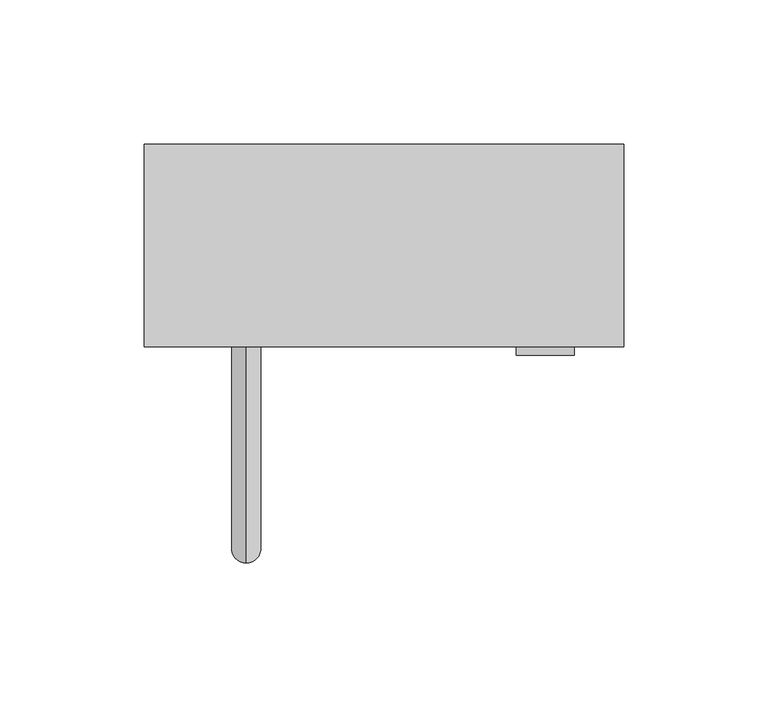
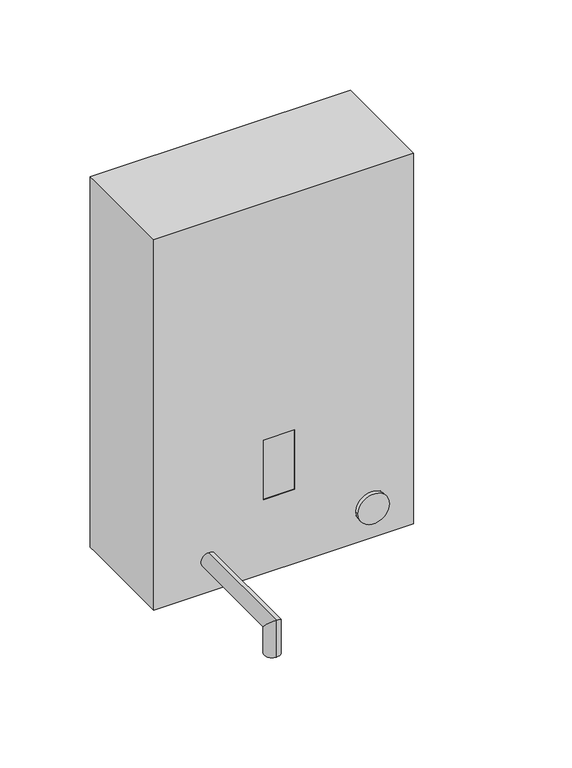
"""IFC4 building model written with IfcOpenShell, lengths in millimetres: proxy geometry, BIMHealth-Water_Boiler-LOD2A-v1 : BIMHealth-Water_Boiler-LOD2A-v1."""

import ifcopenshell
import ifcopenshell.guid

model = None  # the IFC model being written
_history = None  # IfcOwnerHistory: only IFC2X3 demands one
_inside = {}  # id of a spatial element -> (the spatial element, [elements in it])
_under = {}  # id of a project, library or spatial element -> (it, [spatial elements below it])
_declared = {}  # id of a project -> (the project, [libraries it declares])
_typed = {}  # id of a type object -> (the type object, [elements of that type])
_made_of = {}  # id of a material, layer set ... -> (it, [elements and type objects made of it])


def new_model(schema):
    """Start an empty IFC model of exactly this schema.

    Asked for "IFC4X3", IfcOpenShell would pick the latest addendum, in which some entities
    have other attributes; the version numbers below select the first issue.
    IFC2X3 requires an IfcOwnerHistory on every rooted entity: one is made here for all.
    """
    global model, _history
    if schema == "IFC4X3":
        model = ifcopenshell.file(schema_version=(4, 3, 0, 0))
    else:
        model = ifcopenshell.file(schema=schema)
    _inside.clear()
    _under.clear()
    _declared.clear()
    _typed.clear()
    _made_of.clear()
    _history = None
    if model.schema == "IFC2X3":
        org = make("IfcOrganization", Name="unknown")
        user = make(
            "IfcPersonAndOrganization",
            ThePerson=make("IfcPerson", FamilyName="unknown"),
            TheOrganization=org,
        )
        app = make(
            "IfcApplication",
            ApplicationDeveloper=org,
            Version="unknown",
            ApplicationFullName="unknown",
            ApplicationIdentifier="unknown",
        )
        _history = make(
            "IfcOwnerHistory",
            OwningUser=user,
            OwningApplication=app,
            ChangeAction="ADDED",
            CreationDate=0,
        )
    return model


def make(cls, **values):
    """One entity of the class cls with the attributes given. An attribute that is None is left unset."""
    return model.create_entity(
        cls, **{name: value for name, value in values.items() if value is not None}
    )


def rooted(cls, **values):
    """An entity with a GlobalId (a new one), such as an element, a storey or a relation."""
    return make(cls, GlobalId=ifcopenshell.guid.new(), OwnerHistory=_history, **values)


def si_unit(unit_type, name, prefix=None):
    """IfcSIUnit, for example si_unit("LENGTHUNIT", "METRE", prefix="MILLI")."""
    return make("IfcSIUnit", UnitType=unit_type, Prefix=prefix, Name=name)


def assignment(units):
    """IfcUnitAssignment: the units of a project."""
    return None if units is None else make("IfcUnitAssignment", Units=units)


def point(xyz):
    """IfcCartesianPoint."""
    return None if xyz is None else make("IfcCartesianPoint", Coordinates=xyz)


def direction(xyz):
    """IfcDirection."""
    return None if xyz is None else make("IfcDirection", DirectionRatios=xyz)


def frame(location, z_axis=None, x_axis=None):
    """IfcAxis2Placement3D, a coordinate frame: its origin and axes. An axis left out is left unset."""
    return make(
        "IfcAxis2Placement3D",
        Location=point(location),
        Axis=direction(z_axis),
        RefDirection=direction(x_axis),
    )


def frame_2d(location, x_axis=None):
    """IfcAxis2Placement2D, a coordinate frame in the plane: its origin and x axis."""
    return make(
        "IfcAxis2Placement2D", Location=point(location), RefDirection=direction(x_axis)
    )


def origin():
    """The frame at (0, 0, 0) with its axes left unset."""
    return frame((0.0, 0.0, 0.0))


def place(relative_to, where):
    """IfcLocalPlacement: puts the frame where relative to a parent placement (None: the world)."""
    return make(
        "IfcLocalPlacement", PlacementRelTo=relative_to, RelativePlacement=where
    )


def context(
    kind, dimensions, precision=None, world=None, true_north=None, identifier=None
):
    """IfcGeometricRepresentationContext, for example the 3D "Model" context."""
    return make(
        "IfcGeometricRepresentationContext",
        ContextIdentifier=identifier,
        ContextType=kind,
        CoordinateSpaceDimension=dimensions,
        Precision=precision,
        WorldCoordinateSystem=world,
        TrueNorth=true_north,
    )


def project(units=None, contexts=None):
    """IfcProject with its units and contexts."""
    return rooted(
        "IfcProject",
        Name="project",
        RepresentationContexts=contexts,
        UnitsInContext=assignment(units),
    )


def spatial(cls, under=None, at=None, **own):
    """A site, building, storey or space (cls), placed at a placement, below another one or the project."""
    s = rooted(cls, ObjectPlacement=at, **own)
    if under is not None:
        _under.setdefault(under.id(), (under, []))[1].append(s)
    return s


def polyline(points):
    """IfcPolyline through the points."""
    return make("IfcPolyline", Points=[point(p) for p in points])


def circle_curve(where, radius):
    """IfcCircle in the frame where."""
    return make("IfcCircle", Position=where, Radius=radius)


def ellipse_curve(where, semi_axis1, semi_axis2):
    """IfcEllipse in the frame where."""
    return make(
        "IfcEllipse", Position=where, SemiAxis1=semi_axis1, SemiAxis2=semi_axis2
    )


def trimmed(basis, trim1, trim2, sense, master):
    """IfcTrimmedCurve: the piece of a basis curve between two trims."""
    return make(
        "IfcTrimmedCurve",
        BasisCurve=basis,
        Trim1=trim1,
        Trim2=trim2,
        SenseAgreement=sense,
        MasterRepresentation=master,
    )


def segment(curve, same_sense, transition):
    """IfcCompositeCurveSegment."""
    return make(
        "IfcCompositeCurveSegment",
        Transition=transition,
        SameSense=same_sense,
        ParentCurve=curve,
    )


def composite_curve(segments, self_intersect=None):
    """IfcCompositeCurve: segments joined end to end."""
    return make("IfcCompositeCurve", Segments=segments, SelfIntersect=self_intersect)


def outline(outer, holes=None, kind="AREA"):
    """IfcArbitraryClosedProfileDef: a profile drawn as a closed curve; with holes, ...WithVoids."""
    if holes is None:
        return make("IfcArbitraryClosedProfileDef", ProfileType=kind, OuterCurve=outer)
    return make(
        "IfcArbitraryProfileDefWithVoids",
        ProfileType=kind,
        OuterCurve=outer,
        InnerCurves=holes,
    )


def extrude(swept, where, along, depth):
    """IfcExtrudedAreaSolid: the profile swept, set in the frame where, extruded along a direction by depth."""
    return make(
        "IfcExtrudedAreaSolid",
        SweptArea=swept,
        Position=where,
        ExtrudedDirection=direction(along),
        Depth=depth,
    )


def faces_of(points, faces, orient=None, outer=None):
    """IfcFace entities. A face is a list of loops; a loop is a list of indices into points, from 0.

    orient and outer hold one flag for each loop. By default every Orientation is true, the
    first loop of a face is its IfcFaceOuterBound and the others are IfcFaceBound.
    """
    made = []
    for i, loops in enumerate(faces):
        bounds = []
        for j, loop in enumerate(loops):
            is_outer = j == 0 if outer is None else outer[i][j]
            bounds.append(
                make(
                    "IfcFaceOuterBound" if is_outer else "IfcFaceBound",
                    Bound=make("IfcPolyLoop", Polygon=[points[k] for k in loop]),
                    Orientation=True if orient is None else orient[i][j],
                )
            )
        made.append(make("IfcFace", Bounds=bounds))
    return made


def faceted_brep(points, faces, orient=None, outer=None, voids=None):
    """IfcFacetedBrep: a solid bounded by flat faces; with voids (closed shells), ...WithVoids."""
    shared = [point(p) for p in points]
    hull = make("IfcClosedShell", CfsFaces=faces_of(shared, faces, orient, outer))
    if voids is None:
        return make("IfcFacetedBrep", Outer=hull)
    return make(
        "IfcFacetedBrepWithVoids",
        Outer=hull,
        Voids=[
            make(cls, CfsFaces=faces_of(shared, fs, o, b)) for cls, fs, o, b in voids
        ],
    )


def shape(context_of_items, identifier, shape_type, items):
    """IfcShapeRepresentation: the items that make up one representation, for example the "Body"."""
    return make(
        "IfcShapeRepresentation",
        ContextOfItems=context_of_items,
        RepresentationIdentifier=identifier,
        RepresentationType=shape_type,
        Items=items,
    )


def source(mapping_origin, context_of_items, identifier, shape_type, items):
    """IfcRepresentationMap: a shape defined once, which mapped items show again and again."""
    return make(
        "IfcRepresentationMap",
        MappingOrigin=mapping_origin,
        MappedRepresentation=shape(context_of_items, identifier, shape_type, items),
    )


def transform(
    local_origin,
    x_axis=None,
    y_axis=None,
    z_axis=None,
    scale=None,
    scale2=None,
    scale3=None,
    uniform=True,
):
    """IfcCartesianTransformationOperator3D, or its non-uniform kind. x_axis, y_axis, z_axis: its Axis1, 2, 3."""
    if uniform:
        return make(
            "IfcCartesianTransformationOperator3D",
            Axis1=direction(x_axis),
            Axis2=direction(y_axis),
            LocalOrigin=point(local_origin),
            Scale=scale,
            Axis3=direction(z_axis),
        )
    return make(
        "IfcCartesianTransformationOperator3DnonUniform",
        Axis1=direction(x_axis),
        Axis2=direction(y_axis),
        LocalOrigin=point(local_origin),
        Scale=scale,
        Axis3=direction(z_axis),
        Scale2=scale2,
        Scale3=scale3,
    )


def mapped(mapping_source, mapping_target):
    """IfcMappedItem: shows the shape of a source again, moved by a transform."""
    return make(
        "IfcMappedItem", MappingSource=mapping_source, MappingTarget=mapping_target
    )


def made_of(thing, what):
    """Note that an element or type object is made of a material, layer set ...; save() writes the relation."""
    if what is not None:
        _made_of.setdefault(what.id(), (what, []))[1].append(thing)
    return thing


def element(
    cls,
    number,
    at=None,
    inside=None,
    cuts=None,
    type_object=None,
    material=None,
    context=None,
    identifier="Body",
    shape_type=None,
    held_by="IfcProductDefinitionShape",
    body=None,
    shapes=None,
    **own,
):
    """One element of the class cls, such as IfcWall. Its Tag is "e" and its number.

    at: its placement. inside: the storey or other place that contains it. cuts: it is an
    opening in that element (IfcRelVoidsElement). A single representation is given by context,
    identifier, shape_type and body (its items); several are given by shapes. held_by: the class
    of the entity that holds the representations. save() writes the other relations.
    """
    e = rooted(cls, Tag="e%d" % number, ObjectPlacement=at, **own)
    if body is not None:
        shapes = [shape(context, identifier, shape_type, body)]
    if shapes is not None:
        e.Representation = make(held_by, Representations=shapes)
    if inside is not None:
        _inside.setdefault(inside.id(), (inside, []))[1].append(e)
    if cuts is not None:
        rooted(
            "IfcRelVoidsElement", RelatingBuildingElement=cuts, RelatedOpeningElement=e
        )
    if type_object is not None:
        _typed.setdefault(type_object.id(), (type_object, []))[1].append(e)
    return made_of(e, material)


def aggregate(whole, parts):
    """IfcRelAggregates: a whole, such as a stair, and the parts it consists of."""
    return rooted("IfcRelAggregates", RelatingObject=whole, RelatedObjects=parts)


def save(model, path):
    """Write the relations noted so far, then the file.

    IfcRelAggregates (storeys below a building ...), IfcRelContainedInSpatialStructure (elements
    in a storey), IfcRelDefinesByType, IfcRelAssociatesMaterial and IfcRelDeclares: one each for
    every whole, place, type object, material and project.
    """
    for whole, parts in _under.values():
        aggregate(whole, parts)
    for where, things in _inside.values():
        rooted(
            "IfcRelContainedInSpatialStructure",
            RelatedElements=things,
            RelatingStructure=where,
        )
    for kind, things in _typed.values():
        rooted("IfcRelDefinesByType", RelatedObjects=things, RelatingType=kind)
    for what, things in _made_of.values():
        rooted("IfcRelAssociatesMaterial", RelatedObjects=things, RelatingMaterial=what)
    for by, libraries in _declared.values():
        rooted("IfcRelDeclares", RelatingContext=by, RelatedDefinitions=libraries)
    model.write(path)


def plane_surface(at):
    """IfcPlane: the flat surface through the origin of the frame at, square to its z axis."""
    return make("IfcPlane", Position=at)


def cylinder_surface(at, radius):
    """IfcCylindricalSurface: all points at the distance radius from the z axis of the frame at."""
    return make("IfcCylindricalSurface", Position=at, Radius=radius)


def advanced_brep(points, edges, surfaces, faces):
    """IfcAdvancedBrep: a solid bounded by faces that lie on surfaces and meet in shared edges.

    An edge is (start, end): straight between two places in points (the first is 0);
    or (start, end, curve); or (start, end, curve, False) where it runs against its curve.
    A face is (place in surfaces, loops), or (place, loops, False) where it looks against
    its surface's normal. A loop lists edges by number (the first is 1), with a minus sign
    where the edge is run from its end to its start. The first loop is the outer one.
    """
    corners = [point(p) for p in points]
    vertices = [make("IfcVertexPoint", VertexGeometry=c) for c in corners]
    made = []
    for start, end, *more in edges:
        made.append(
            make(
                "IfcEdgeCurve",
                EdgeStart=vertices[start],
                EdgeEnd=vertices[end],
                EdgeGeometry=more[0] if more else make("IfcPolyline", Points=[corners[start], corners[end]]),
                SameSense=more[1] if len(more) > 1 else True,
            )
        )
    hull = []
    for where, loops, *sense in faces:
        bounds = []
        for j, loop in enumerate(loops):
            ring = [make("IfcOrientedEdge", EdgeElement=made[abs(k) - 1], Orientation=k > 0) for k in loop]
            bounds.append(
                make(
                    "IfcFaceOuterBound" if j == 0 else "IfcFaceBound",
                    Bound=make("IfcEdgeLoop", EdgeList=ring),
                    Orientation=True,
                )
            )
        hull.append(make("IfcAdvancedFace", Bounds=bounds, FaceSurface=surfaces[where], SameSense=sense[0] if sense else True))
    return make("IfcAdvancedBrep", Outer=make("IfcClosedShell", CfsFaces=hull))


def generic_models_0cca4b6f(model_context):
    return source(origin(), model_context, "Body", "SolidModel", [
        advanced_brep(
        [(-44.7479069, -70.0, 1126.4710144), (-44.7479069, -70.0, 1116.4710144), (-44.7479069, -145.0, 1126.4710144), (-44.7479069, -135.0, 1116.4710144), (-44.7479069, -145.0, 1101.4710144), (-44.7479069, -135.0, 1101.4710144)],
        [
            (0, 1, circle_curve(frame((-44.7479069, -70.0, 1121.4710144), z_axis=(0.0, 1.0, 0.0), x_axis=(0.0, 0.0, -1.0)), 5.0)),
            (1, 0, circle_curve(frame((-44.7479069, -70.0, 1121.4710144), z_axis=(0.0, 1.0, 0.0), x_axis=(0.0, 0.0, -1.0)), 5.0)),
            (0, 2),
            (2, 3, ellipse_curve(frame((-44.7479069, -140.0, 1121.4710144), z_axis=(0.0, 0.7071067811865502, 0.7071067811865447), x_axis=(0.0, 0.7071067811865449, -0.7071067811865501)), 7.0710678, 5.0)),
            (3, 1),
            (3, 2, ellipse_curve(frame((-44.7479069, -140.0, 1121.4710144), z_axis=(0.0, 0.7071067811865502, 0.7071067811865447), x_axis=(0.0, 0.7071067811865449, -0.7071067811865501)), 7.0710678, 5.0)),
            (4, 5, circle_curve(frame((-44.7479069, -140.0, 1101.4710144), z_axis=(0.0, 0.0, -1.0), x_axis=(0.0, 1.0, 0.0)), 5.0)),
            (5, 4, circle_curve(frame((-44.7479069, -140.0, 1101.4710144), z_axis=(0.0, 0.0, -1.0), x_axis=(0.0, 1.0, 0.0)), 5.0)),
            (2, 4),
            (5, 3),
        ],
        [
            plane_surface(frame((-44.7479069, -70.0, 1121.4710144), z_axis=(0.0, 1.0, 0.0), x_axis=(1.0, 0.0, 0.0))),
            cylinder_surface(frame((-44.7479069, -70.0, 1121.4710144), z_axis=(0.0, 1.0, 0.0), x_axis=(0.0, 0.0, -1.0)), 5.0),
            plane_surface(frame((-44.7479069, -140.0, 1101.4710144), z_axis=(0.0, 0.0, -1.0), x_axis=(1.0, 0.0, 0.0))),
            cylinder_surface(frame((-44.7479069, -140.0, 1121.4710144), z_axis=(0.0, 0.0, 1.0), x_axis=(0.0, 1.0, 0.0)), 5.0),
        ],
        [
            (0, [[1, 2]]),
            (1, [[-1, 3, 4, 5]]),
            (1, [[-2, -5, 6, -3]]),
            (2, [[7, 8]]),
            (3, [[-4, 9, -8, 10]]),
            (3, [[-6, -10, -7, -9]]),
        ],
    ),
        faceted_brep([(85.9481653, -70.0, 1350.0), (-80.0, -70.0, 1350.0), (-80.0, -70.0, 1100.0), (85.9481653, -70.0, 1100.0), (10.0, -70.0, 1190.0), (10.0, -70.0, 1150.0), (-10.0, -70.0, 1150.0), (-10.0, -70.0, 1190.0), (80.9481653, -65.0, 1345.0), (80.9481653, -65.0, 1105.0), (-75.0, -65.0, 1105.0), (-75.0, -65.0, 1345.0), (10.0, -65.0, 1190.0), (-10.0, -65.0, 1190.0), (-10.0, -65.0, 1150.0), (10.0, -65.0, 1150.0), (85.9481653, -5.0, 1350.0), (85.9481653, 0.0, 1350.0), (-80.0, 0.0, 1350.0), (-80.0, -5.0, 1350.0), (-80.0, 0.0, 1100.0), (-80.0, -5.0, 1100.0), (85.9481653, 0.0, 1100.0), (85.9481653, -5.0, 1100.0), (10.0, 0.0, 1190.0), (-10.0, 0.0, 1190.0), (-10.0, 0.0, 1150.0), (10.0, 0.0, 1150.0), (80.9481653, -5.0, 1345.0), (80.9481653, -5.0, 1105.0), (-75.0, -5.0, 1105.0), (-75.0, -5.0, 1345.0), (10.0, -5.0, 1190.0), (10.0, -5.0, 1150.0), (-10.0, -5.0, 1150.0), (-10.0, -5.0, 1190.0)], [[[0, 1, 2, 3], [4, 5, 6, 7]], [[8, 9, 10, 11], [12, 13, 14, 15]], [[1, 0, 16, 17, 18, 19]], [[2, 1, 19, 18, 20, 21]], [[3, 2, 21, 20, 22, 23]], [[0, 3, 23, 22, 17, 16]], [[5, 4, 12, 15]], [[6, 5, 15, 14]], [[7, 6, 14, 13]], [[4, 7, 13, 12]], [[17, 22, 20, 18], [24, 25, 26, 27]], [[9, 8, 28, 29]], [[10, 9, 29, 30]], [[11, 10, 30, 31]], [[8, 11, 31, 28]], [[29, 28, 31, 30], [32, 33, 34, 35]], [[33, 32, 24, 27]], [[34, 33, 27, 26]], [[35, 34, 26, 25]], [[32, 35, 25, 24]]]),
        extrude(outline(polyline([(10.0, -70.0), (-10.0, -70.0), (-10.0, -65.0), (10.0, -65.0), (10.0, -70.0)])), frame((0.0, 0.0, 1150.0), z_axis=(0.0, 0.0, 1.0), x_axis=(1.0, 0.0, 0.0)), (0.0, 0.0, 1.0), 40.0),
        extrude(outline(composite_curve([segment(trimmed(circle_curve(frame_2d((1121.4997159, 58.8216964)), 10.0), [point((1121.4997159, 48.8216964))], [point((1121.4997159, 68.8216964))], False, "CARTESIAN"), True, "CONTINUOUS"), segment(trimmed(circle_curve(frame_2d((1121.4997159, 58.8216964)), 10.0), [point((1121.4997159, 68.8216964))], [point((1121.4997159, 48.8216964))], False, "CARTESIAN"), True, "CONTINUOUS")], self_intersect=False)), frame((0.0, -72.9603212, 0.0), z_axis=(0.0, 1.0, 0.0), x_axis=(0.0, 0.0, 1.0)), (0.0, 0.0, 1.0), 7.9603212),
    ])


if __name__ == "__main__":
    model = new_model("IFC4")
    model_context = context("Model", 3, world=origin())
    ifc_project = project(units=[si_unit("LENGTHUNIT", "METRE", prefix="MILLI")], contexts=[model_context])
    site = spatial("IfcSite", under=ifc_project)
    building = spatial("IfcBuilding", under=site)
    placement = place(None, origin())
    generic_models_shape = generic_models_0cca4b6f(model_context)
    element("IfcBuildingElementProxy", 1, Name="BIMHealth-Water_Boiler-LOD2A-v1 : BIMHealth-Water_Boiler-LOD2A-v1", ObjectType="BIMHealth-Water_Boiler-LOD2A-v1 : BIMHealth-Water_Boiler-LOD2A-v1", at=placement, inside=building, context=model_context, shape_type="MappedRepresentation", body=[
        mapped(generic_models_shape, transform((0.0, 0.0, 0.0), x_axis=(1.0, 0.0, 0.0), y_axis=(0.0, 1.0, 0.0), z_axis=(0.0, 0.0, 1.0))),
    ])
    save(model, "model.ifc")
